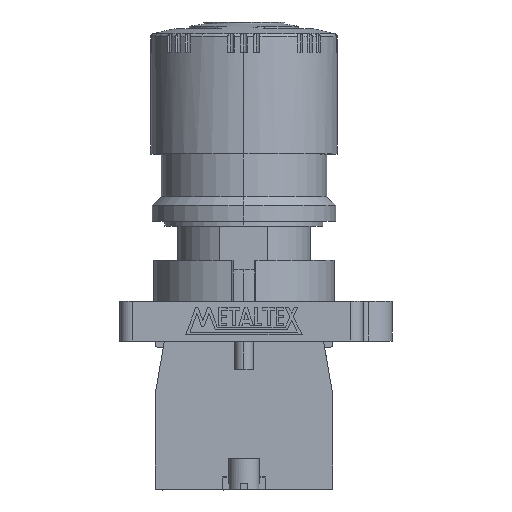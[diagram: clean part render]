
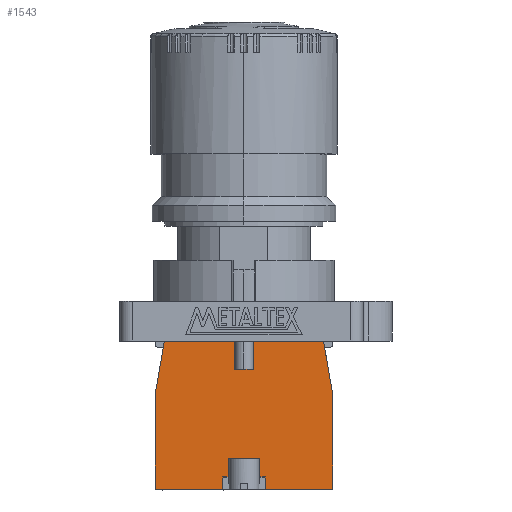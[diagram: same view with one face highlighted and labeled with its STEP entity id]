
A CAD part, top view. The second image highlights one B-rep face of the part: STEP entity #1543.
In plain terms, the highlighted planar face has unit normal (0, 0, 1).
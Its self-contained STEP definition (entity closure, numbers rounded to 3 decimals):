
#275 = VECTOR ( 'NONE', #15454, 1000. ) ;
#343 = VECTOR ( 'NONE', #15475, 1000. ) ;
#489 = VECTOR ( 'NONE', #15442, 1000. ) ;
#910 = LINE ( 'NONE', #911, #3279 ) ;
#911 = CARTESIAN_POINT ( 'NONE',  ( 1.5, 19.6, 7.45 ) ) ;
#912 = DIRECTION ( 'NONE',  ( 0., 1., 0. ) ) ;
#913 = LINE ( 'NONE', #914, #3278 ) ;
#914 = CARTESIAN_POINT ( 'NONE',  ( 3.5, 0., 7.45 ) ) ;
#915 = DIRECTION ( 'NONE',  ( 0., 1., 0. ) ) ;
#916 = LINE ( 'NONE', #917, #3275 ) ;
#917 = CARTESIAN_POINT ( 'NONE',  ( 0., 2., 7.45 ) ) ;
#918 = DIRECTION ( 'NONE',  ( 1., 0., 0. ) ) ;
#919 = LINE ( 'NONE', #920, #3276 ) ;
#920 = CARTESIAN_POINT ( 'NONE',  ( 2.6, 0., 7.45 ) ) ;
#921 = DIRECTION ( 'NONE',  ( 0., 1., 0. ) ) ;
#922 = LINE ( 'NONE', #923, #3277 ) ;
#923 = CARTESIAN_POINT ( 'NONE',  ( -2.6, 0., 7.45 ) ) ;
#924 = DIRECTION ( 'NONE',  ( 0., 1., 0. ) ) ;
#925 = LINE ( 'NONE', #926, #3274 ) ;
#926 = CARTESIAN_POINT ( 'NONE',  ( 0., 2., 7.45 ) ) ;
#927 = DIRECTION ( 'NONE',  ( 1., 0., 0. ) ) ;
#928 = LINE ( 'NONE', #929, #3273 ) ;
#929 = CARTESIAN_POINT ( 'NONE',  ( -3.5, 0., 7.45 ) ) ;
#930 = DIRECTION ( 'NONE',  ( 0., 1., 0. ) ) ;
#931 = LINE ( 'NONE', #932, #3267 ) ;
#932 = CARTESIAN_POINT ( 'NONE',  ( -1.5, 19.6, 7.45 ) ) ;
#933 = DIRECTION ( 'NONE',  ( 0., 1., 0. ) ) ;
#934 = LINE ( 'NONE', #935, #3268 ) ;
#935 = CARTESIAN_POINT ( 'NONE',  ( -13., 24.2, 7.45 ) ) ;
#936 = DIRECTION ( 'NONE',  ( -0.17, -0.985, 0. ) ) ;
#946 = LINE ( 'NONE', #947, #3272 ) ;
#947 = CARTESIAN_POINT ( 'NONE',  ( 14.5, 0., 7.45 ) ) ;
#948 = DIRECTION ( 'NONE',  ( 0., 1., 0. ) ) ;
#1060 = LINE ( 'NONE', #1061, #3320 ) ;
#1061 = CARTESIAN_POINT ( 'NONE',  ( -14.5, 0., 7.45 ) ) ;
#1062 = DIRECTION ( 'NONE',  ( 1., 0., 0. ) ) ;
#1069 = LINE ( 'NONE', #1070, #3475 ) ;
#1070 = CARTESIAN_POINT ( 'NONE',  ( -14.5, 0., 7.45 ) ) ;
#1071 = DIRECTION ( 'NONE',  ( 1., 0., 0. ) ) ;
#1543 = ADVANCED_FACE ( 'NONE', ( #9394 ), #6107, .T. ) ;
#2544 = EDGE_CURVE ( 'NONE', #8241, #8205, #910, .T. ) ;
#2545 = EDGE_CURVE ( 'NONE', #8318, #8371, #913, .T. ) ;
#2546 = EDGE_CURVE ( 'NONE', #8370, #8371, #916, .T. ) ;
#2547 = EDGE_CURVE ( 'NONE', #8370, #8235, #919, .T. ) ;
#2548 = EDGE_CURVE ( 'NONE', #8369, #8237, #922, .T. ) ;
#2549 = EDGE_CURVE ( 'NONE', #8368, #8369, #925, .T. ) ;
#2550 = EDGE_CURVE ( 'NONE', #8301, #8368, #928, .T. ) ;
#2551 = EDGE_CURVE ( 'NONE', #8211, #8265, #931, .T. ) ;
#2552 = EDGE_CURVE ( 'NONE', #8263, #8226, #934, .T. ) ;
#2556 = EDGE_CURVE ( 'NONE', #8319, #8258, #946, .T. ) ;
#2594 = EDGE_CURVE ( 'NONE', #8229, #8301, #1060, .T. ) ;
#2597 = EDGE_CURVE ( 'NONE', #8318, #8319, #1069, .T. ) ;
#2662 = EDGE_CURVE ( 'NONE', #8226, #8229, #15299, .T. ) ;
#2669 = EDGE_CURVE ( 'NONE', #8241, #8211, #15320, .T. ) ;
#2675 = EDGE_CURVE ( 'NONE', #8235, #8237, #15338, .T. ) ;
#2709 = EDGE_CURVE ( 'NONE', #8392, #8205, #15440, .T. ) ;
#2713 = EDGE_CURVE ( 'NONE', #8265, #8263, #15452, .T. ) ;
#2720 = EDGE_CURVE ( 'NONE', #8258, #8392, #15473, .T. ) ;
#3267 = VECTOR ( 'NONE', #933, 1000. ) ;
#3268 = VECTOR ( 'NONE', #936, 1000. ) ;
#3272 = VECTOR ( 'NONE', #948, 1000. ) ;
#3273 = VECTOR ( 'NONE', #930, 1000. ) ;
#3274 = VECTOR ( 'NONE', #927, 1000. ) ;
#3275 = VECTOR ( 'NONE', #918, 1000. ) ;
#3276 = VECTOR ( 'NONE', #921, 1000. ) ;
#3277 = VECTOR ( 'NONE', #924, 1000. ) ;
#3278 = VECTOR ( 'NONE', #915, 1000. ) ;
#3279 = VECTOR ( 'NONE', #912, 1000. ) ;
#3320 = VECTOR ( 'NONE', #1062, 1000. ) ;
#3475 = VECTOR ( 'NONE', #1071, 1000. ) ;
#3554 = VECTOR ( 'NONE', #15322, 1000. ) ;
#3736 = VECTOR ( 'NONE', #15340, 1000. ) ;
#3876 = VECTOR ( 'NONE', #15301, 1000. ) ;
#6107 = PLANE ( 'NONE',  #9439 ) ;
#6108 = CARTESIAN_POINT ( 'NONE',  ( 0., 0., 7.45 ) ) ;
#6109 = DIRECTION ( 'NONE',  ( 0., 0., 1. ) ) ;
#6110 = DIRECTION ( 'NONE',  ( 1., 0., 0. ) ) ;
#8205 = VERTEX_POINT ( 'NONE', #10138 ) ;
#8211 = VERTEX_POINT ( 'NONE', #10143 ) ;
#8226 = VERTEX_POINT ( 'NONE', #10158 ) ;
#8229 = VERTEX_POINT ( 'NONE', #10161 ) ;
#8235 = VERTEX_POINT ( 'NONE', #10167 ) ;
#8237 = VERTEX_POINT ( 'NONE', #10169 ) ;
#8241 = VERTEX_POINT ( 'NONE', #10173 ) ;
#8258 = VERTEX_POINT ( 'NONE', #10190 ) ;
#8263 = VERTEX_POINT ( 'NONE', #10195 ) ;
#8265 = VERTEX_POINT ( 'NONE', #10197 ) ;
#8301 = VERTEX_POINT ( 'NONE', #10233 ) ;
#8318 = VERTEX_POINT ( 'NONE', #10250 ) ;
#8319 = VERTEX_POINT ( 'NONE', #10251 ) ;
#8368 = VERTEX_POINT ( 'NONE', #10300 ) ;
#8369 = VERTEX_POINT ( 'NONE', #10301 ) ;
#8370 = VERTEX_POINT ( 'NONE', #10302 ) ;
#8371 = VERTEX_POINT ( 'NONE', #10303 ) ;
#8392 = VERTEX_POINT ( 'NONE', #10324 ) ;
#8724 = EDGE_LOOP ( 'NONE', ( #12987, #13075, #12979, #13067, #13131, #12537, #12530, #13124, #13030, #13037, #12430, #13044, #12482, #13097, #12513, #12560, #12489, #13051 ) ) ;
#9394 = FACE_OUTER_BOUND ( 'NONE', #8724, .T. ) ;
#9439 = AXIS2_PLACEMENT_3D ( 'NONE', #6108, #6109, #6110 ) ;
#10138 = CARTESIAN_POINT ( 'NONE',  ( 1.5, 24.2, 7.45 ) ) ;
#10143 = CARTESIAN_POINT ( 'NONE',  ( -1.5, 19.6, 7.45 ) ) ;
#10158 = CARTESIAN_POINT ( 'NONE',  ( -14.5, 15.5, 7.45 ) ) ;
#10161 = CARTESIAN_POINT ( 'NONE',  ( -14.5, 0., 7.45 ) ) ;
#10167 = CARTESIAN_POINT ( 'NONE',  ( 2.6, 5., 7.45 ) ) ;
#10169 = CARTESIAN_POINT ( 'NONE',  ( -2.6, 5., 7.45 ) ) ;
#10173 = CARTESIAN_POINT ( 'NONE',  ( 1.5, 19.6, 7.45 ) ) ;
#10190 = CARTESIAN_POINT ( 'NONE',  ( 14.5, 15.5, 7.45 ) ) ;
#10195 = CARTESIAN_POINT ( 'NONE',  ( -13., 24.2, 7.45 ) ) ;
#10197 = CARTESIAN_POINT ( 'NONE',  ( -1.5, 24.2, 7.45 ) ) ;
#10233 = CARTESIAN_POINT ( 'NONE',  ( -3.5, 0., 7.45 ) ) ;
#10250 = CARTESIAN_POINT ( 'NONE',  ( 3.5, 0., 7.45 ) ) ;
#10251 = CARTESIAN_POINT ( 'NONE',  ( 14.5, 0., 7.45 ) ) ;
#10300 = CARTESIAN_POINT ( 'NONE',  ( -3.5, 2., 7.45 ) ) ;
#10301 = CARTESIAN_POINT ( 'NONE',  ( -2.6, 2., 7.45 ) ) ;
#10302 = CARTESIAN_POINT ( 'NONE',  ( 2.6, 2., 7.45 ) ) ;
#10303 = CARTESIAN_POINT ( 'NONE',  ( 3.5, 2., 7.45 ) ) ;
#10324 = CARTESIAN_POINT ( 'NONE',  ( 13., 24.2, 7.45 ) ) ;
#12430 = ORIENTED_EDGE ( 'NONE', *, *, #2546, .T. ) ;
#12482 = ORIENTED_EDGE ( 'NONE', *, *, #2597, .T. ) ;
#12489 = ORIENTED_EDGE ( 'NONE', *, *, #2544, .F. ) ;
#12513 = ORIENTED_EDGE ( 'NONE', *, *, #2720, .T. ) ;
#12530 = ORIENTED_EDGE ( 'NONE', *, *, #2549, .T. ) ;
#12537 = ORIENTED_EDGE ( 'NONE', *, *, #2550, .T. ) ;
#12560 = ORIENTED_EDGE ( 'NONE', *, *, #2709, .T. ) ;
#12979 = ORIENTED_EDGE ( 'NONE', *, *, #2552, .T. ) ;
#12987 = ORIENTED_EDGE ( 'NONE', *, *, #2551, .T. ) ;
#13030 = ORIENTED_EDGE ( 'NONE', *, *, #2675, .F. ) ;
#13037 = ORIENTED_EDGE ( 'NONE', *, *, #2547, .F. ) ;
#13044 = ORIENTED_EDGE ( 'NONE', *, *, #2545, .F. ) ;
#13051 = ORIENTED_EDGE ( 'NONE', *, *, #2669, .T. ) ;
#13067 = ORIENTED_EDGE ( 'NONE', *, *, #2662, .T. ) ;
#13075 = ORIENTED_EDGE ( 'NONE', *, *, #2713, .T. ) ;
#13097 = ORIENTED_EDGE ( 'NONE', *, *, #2556, .T. ) ;
#13124 = ORIENTED_EDGE ( 'NONE', *, *, #2548, .T. ) ;
#13131 = ORIENTED_EDGE ( 'NONE', *, *, #2594, .T. ) ;
#15299 = LINE ( 'NONE', #15300, #3876 ) ;
#15300 = CARTESIAN_POINT ( 'NONE',  ( -14.5, 15.5, 7.45 ) ) ;
#15301 = DIRECTION ( 'NONE',  ( 0., -1., 0. ) ) ;
#15320 = LINE ( 'NONE', #15321, #3554 ) ;
#15321 = CARTESIAN_POINT ( 'NONE',  ( 0., 19.6, 7.45 ) ) ;
#15322 = DIRECTION ( 'NONE',  ( -1., 0., 0. ) ) ;
#15338 = LINE ( 'NONE', #15339, #3736 ) ;
#15339 = CARTESIAN_POINT ( 'NONE',  ( 0., 5., 7.45 ) ) ;
#15340 = DIRECTION ( 'NONE',  ( -1., 0., 0. ) ) ;
#15440 = LINE ( 'NONE', #15441, #489 ) ;
#15441 = CARTESIAN_POINT ( 'NONE',  ( 13., 24.2, 7.45 ) ) ;
#15442 = DIRECTION ( 'NONE',  ( -1., 0., 0. ) ) ;
#15452 = LINE ( 'NONE', #15453, #275 ) ;
#15453 = CARTESIAN_POINT ( 'NONE',  ( 13., 24.2, 7.45 ) ) ;
#15454 = DIRECTION ( 'NONE',  ( -1., 0., 0. ) ) ;
#15473 = LINE ( 'NONE', #15474, #343 ) ;
#15474 = CARTESIAN_POINT ( 'NONE',  ( 14.5, 15.5, 7.45 ) ) ;
#15475 = DIRECTION ( 'NONE',  ( -0.17, 0.985, 0. ) ) ;
